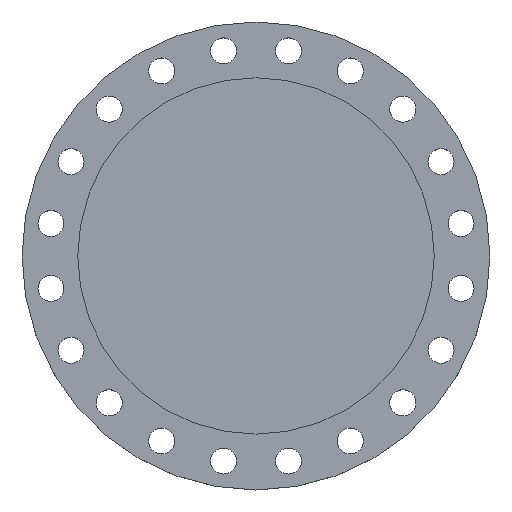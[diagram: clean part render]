
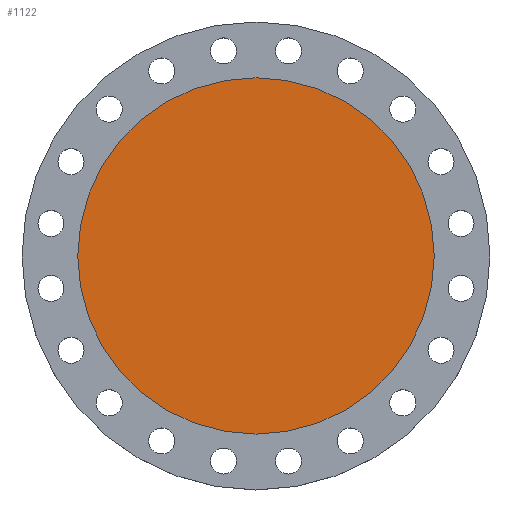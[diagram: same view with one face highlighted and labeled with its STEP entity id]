
A CAD part, top view. The second image highlights one B-rep face of the part: STEP entity #1122.
In plain terms, the highlighted planar face has unit normal (0, 0, 1).
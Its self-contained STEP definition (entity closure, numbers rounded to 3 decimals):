
#110 = CARTESIAN_POINT ( 'NONE',  ( 0., 0., 0. ) ) ;
#206 = CARTESIAN_POINT ( 'NONE',  ( 0., 0., 0. ) ) ;
#300 = DIRECTION ( 'NONE',  ( -1., 0., 0. ) ) ;
#348 = AXIS2_PLACEMENT_3D ( 'NONE', #206, #791, #1403 ) ;
#377 = EDGE_CURVE ( 'NONE', #1334, #1726, #945, .T. ) ;
#515 = CARTESIAN_POINT ( 'NONE',  ( -287.5, 0., 0. ) ) ;
#567 = CARTESIAN_POINT ( 'NONE',  ( 287.5, 0., 0. ) ) ;
#685 = DIRECTION ( 'NONE',  ( 0., 0., -1. ) ) ;
#791 = DIRECTION ( 'NONE',  ( 0., 0., 1. ) ) ;
#816 = CIRCLE ( 'NONE', #1077, 287.5 ) ;
#849 = EDGE_CURVE ( 'NONE', #1726, #1334, #816, .T. ) ;
#870 = EDGE_LOOP ( 'NONE', ( #1338, #1414 ) ) ;
#945 = CIRCLE ( 'NONE', #1373, 287.5 ) ;
#970 = FACE_OUTER_BOUND ( 'NONE', #870, .T. ) ;
#1077 = AXIS2_PLACEMENT_3D ( 'NONE', #110, #685, #1296 ) ;
#1084 = CARTESIAN_POINT ( 'NONE',  ( 0., 0., 0. ) ) ;
#1122 = ADVANCED_FACE ( 'NONE', ( #970 ), #1533, .T. ) ;
#1296 = DIRECTION ( 'NONE',  ( -1., 0., 0. ) ) ;
#1334 = VERTEX_POINT ( 'NONE', #567 ) ;
#1338 = ORIENTED_EDGE ( 'NONE', *, *, #849, .F. ) ;
#1373 = AXIS2_PLACEMENT_3D ( 'NONE', #1084, #1616, #300 ) ;
#1403 = DIRECTION ( 'NONE',  ( 1., 0., 0. ) ) ;
#1414 = ORIENTED_EDGE ( 'NONE', *, *, #377, .F. ) ;
#1533 = PLANE ( 'NONE',  #348 ) ;
#1616 = DIRECTION ( 'NONE',  ( 0., 0., -1. ) ) ;
#1726 = VERTEX_POINT ( 'NONE', #515 ) ;
